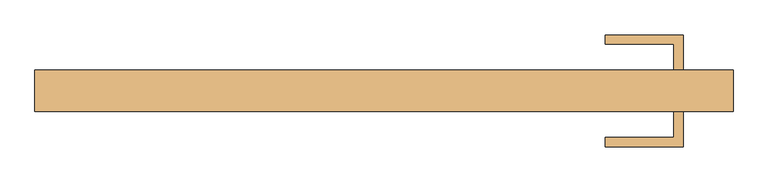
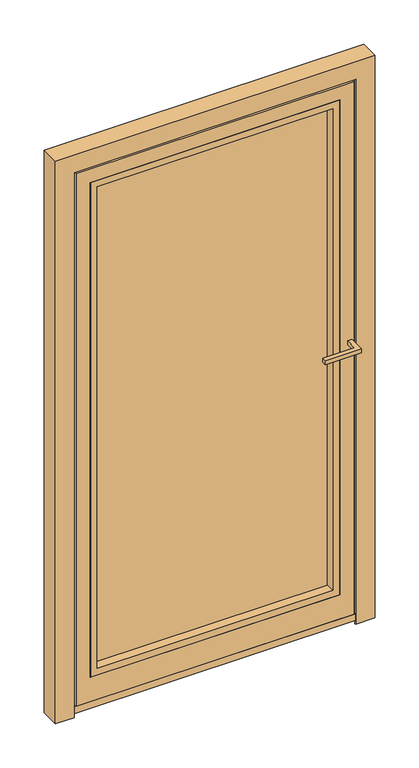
"""IFC4 building model written with IfcOpenShell, lengths in millimetres: door geometry, Reynaers_CS 77_Door_Plinth_Outward Opening_Single Vent : Reynaers_CS 77_Door_Plinth_Outward Opening_Single Vent."""

from ifc_helpers import new_model, si_unit, frame, origin, place, context, project, spatial, polyline, outline, extrude, faceted_brep, source, transform, mapped, element, save


def door_4000bd27(model_context):
    return source(origin(), model_context, "Body", "SolidModel", [
        extrude(outline(polyline([(488.5, 42.5), (473.5, 42.5), (473.5, 85.0), (361.0, 85.0), (361.0, 100.0), (488.5, 100.0), (488.5, 42.5)])), frame((0.0, 0.0, 1062.5), z_axis=(0.0, 0.0, 1.0), x_axis=(1.0, 0.0, 0.0)), (0.0, 0.0, 1.0), 15.0),
        extrude(outline(polyline([(488.5, -25.5), (488.5, -83.0), (361.0, -83.0), (361.0, -68.0), (473.5, -68.0), (473.5, -25.5), (488.5, -25.5)])), frame((0.0, 0.0, 1062.5), z_axis=(0.0, 0.0, 1.0), x_axis=(1.0, 0.0, 0.0)), (0.0, 0.0, 1.0), 15.0),
        faceted_brep([(496.0, -25.5, 40.0), (496.0, -25.5, 2046.0), (-496.0, -25.5, 2046.0), (-496.0, -25.5, 40.0), (-445.0, -25.5, 1995.0), (445.0, -25.5, 1995.0), (445.0, -25.5, 131.0), (-445.0, -25.5, 131.0), (445.0, 34.5, 131.0), (-445.0, 34.5, 131.0), (445.0, 34.5, 1995.0), (-445.0, 34.5, 1995.0), (420.0, 34.5, 1970.0), (420.0, 34.5, 156.0), (-420.0, 34.5, 156.0), (-420.0, 34.5, 1970.0), (420.0, 42.5, 156.0), (-420.0, 42.5, 156.0), (-522.0, 42.5, 2072.0), (522.0, 42.5, 2072.0), (522.0, 42.5, 14.0), (-522.0, 42.5, 14.0), (-420.0, 42.5, 1970.0), (420.0, 42.5, 1970.0), (-522.0, 38.7, 14.0), (522.0, 38.7, 14.0), (-522.0, 38.7, 2072.0), (522.0, 38.7, 2072.0), (-507.0, 38.7, 2057.0), (507.0, 38.7, 2057.0), (507.0, 38.7, 40.0), (-507.0, 38.7, 40.0), (496.0, -15.7, 2046.0), (496.0, -15.7, 40.0), (-496.0, -15.7, 40.0), (-507.0, -15.7, 40.0), (507.0, -15.7, 40.0), (-496.0, -15.7, 2046.0), (507.0, -15.7, 2057.0), (-507.0, -15.7, 2057.0)], [[[0, 1, 2, 3], [4, 5, 6, 7]], [[7, 6, 8, 9]], [[5, 10, 8, 6]], [[10, 11, 9, 8], [12, 13, 14, 15]], [[9, 11, 4, 7]], [[16, 17, 14, 13]], [[18, 19, 20, 21], [22, 17, 16, 23]], [[22, 15, 14, 17]], [[12, 23, 16, 13]], [[24, 21, 20, 25]], [[21, 24, 26, 18]], [[25, 20, 19, 27]], [[24, 25, 27, 26], [28, 29, 30, 31]], [[32, 1, 0, 33]], [[33, 0, 3, 34, 35, 31, 30, 36]], [[37, 32, 33, 36, 38, 39, 35, 34]], [[2, 37, 34, 3]], [[29, 38, 36, 30]], [[39, 28, 31, 35]], [[4, 11, 10, 5]], [[37, 2, 1, 32]], [[39, 38, 29, 28]], [[18, 26, 27, 19]], [[15, 22, 23, 12]]]),
        extrude(outline(polyline([(132.0, -444.0), (132.0, 444.0), (1994.0, 444.0), (1994.0, -444.0), (132.0, -444.0)]), holes=[polyline([(156.0, 420.0), (156.0, -420.0), (1970.0, -420.0), (1970.0, 420.0), (156.0, 420.0)])]), frame((0.0, -25.5, 0.0), z_axis=(0.0, 1.0, 0.0), x_axis=(0.0, 0.0, 1.0)), (0.0, 0.0, 1.0), 33.0),
        extrude(outline(polyline([(439.0, 10.5), (-439.0, 10.5), (-439.0, 34.5), (439.0, 34.5), (439.0, 10.5)])), frame((0.0, 0.0, 137.0), z_axis=(0.0, 0.0, 1.0), x_axis=(1.0, 0.0, 0.0)), (0.0, 0.0, 1.0), 1852.0),
        faceted_brep([(-528.0, 32.7, 0.0), (-517.0, 32.7, 0.0), (-517.0, -21.7, 0.0), (-502.0, -21.7, 0.0), (-502.0, -25.5, 0.0), (-570.0, -25.5, 0.0), (-570.0, 42.5, 0.0), (-528.0, 42.5, 0.0), (-528.0, 32.7, 2078.0), (528.0, 32.7, 2078.0), (528.0, 32.7, 0.0), (517.0, 32.7, 0.0), (517.0, 32.7, 2067.0), (-517.0, 32.7, 2067.0), (-517.0, -21.7, 2067.0), (517.0, -21.7, 2067.0), (517.0, -21.7, 0.0), (502.0, -21.7, 0.0), (502.0, -21.7, 2052.0), (-502.0, -21.7, 2052.0), (-502.0, -25.5, 2052.0), (502.0, -25.5, 2052.0), (502.0, -25.5, 0.0), (570.0, -25.5, 0.0), (570.0, -25.5, 2120.0), (-570.0, -25.5, 2120.0), (-570.0, 42.5, 2120.0), (570.0, 42.5, 2120.0), (570.0, 42.5, 0.0), (528.0, 42.5, 0.0), (528.0, 42.5, 2078.0), (-528.0, 42.5, 2078.0)], [[[0, 1, 2, 3, 4, 5, 6, 7]], [[1, 0, 8, 9, 10, 11, 12, 13]], [[2, 1, 13, 14]], [[3, 2, 14, 15, 16, 17, 18, 19]], [[4, 3, 19, 20]], [[5, 4, 20, 21, 22, 23, 24, 25]], [[6, 5, 25, 26]], [[7, 6, 26, 27, 28, 29, 30, 31]], [[0, 7, 31, 8]], [[9, 30, 29, 10]], [[10, 29, 28, 23, 22, 17, 16, 11]], [[15, 12, 11, 16]], [[27, 24, 23, 28]], [[21, 18, 17, 22]], [[26, 25, 24, 27]], [[8, 31, 30, 9]], [[14, 13, 12, 15]], [[20, 19, 18, 21]]]),
        extrude(outline(polyline([(-517.0, -7.5), (-517.0, 7.5), (517.0, 7.5), (517.0, -7.5), (-517.0, -7.5)])), frame((0.0, 0.0, 1.0), z_axis=(0.0, 0.0, 1.0), x_axis=(1.0, 0.0, 0.0)), (0.0, 0.0, 1.0), 39.0),
        extrude(outline(polyline([(502.0, -21.7), (502.0, -25.5), (-502.0, -25.5), (-502.0, -21.7), (502.0, -21.7)])), frame((0.0, 0.0, 14.0), z_axis=(0.0, 0.0, 1.0), x_axis=(1.0, 0.0, 0.0)), (0.0, 0.0, 1.0), 26.0),
    ])


if __name__ == "__main__":
    model = new_model("IFC4")
    model_context = context("Model", 3, world=origin())
    ifc_project = project(units=[si_unit("LENGTHUNIT", "METRE", prefix="MILLI")], contexts=[model_context])
    site = spatial("IfcSite", under=ifc_project)
    building = spatial("IfcBuilding", under=site)
    placement = place(None, origin())
    door_shape = door_4000bd27(model_context)
    element("IfcDoor", 1, ObjectType="Reynaers_CS 77_Door_Plinth_Outward Opening_Single Vent : Reynaers_CS 77_Door_Plinth_Outward Opening_Single Vent", at=placement, inside=building, context=model_context, shape_type="MappedRepresentation", body=[
        mapped(door_shape, transform((0.0, 0.0, 0.0), x_axis=(1.0, 0.0, 0.0), y_axis=(0.0, 1.0, 0.0), z_axis=(0.0, 0.0, 1.0))),
    ])
    save(model, "model.ifc")
